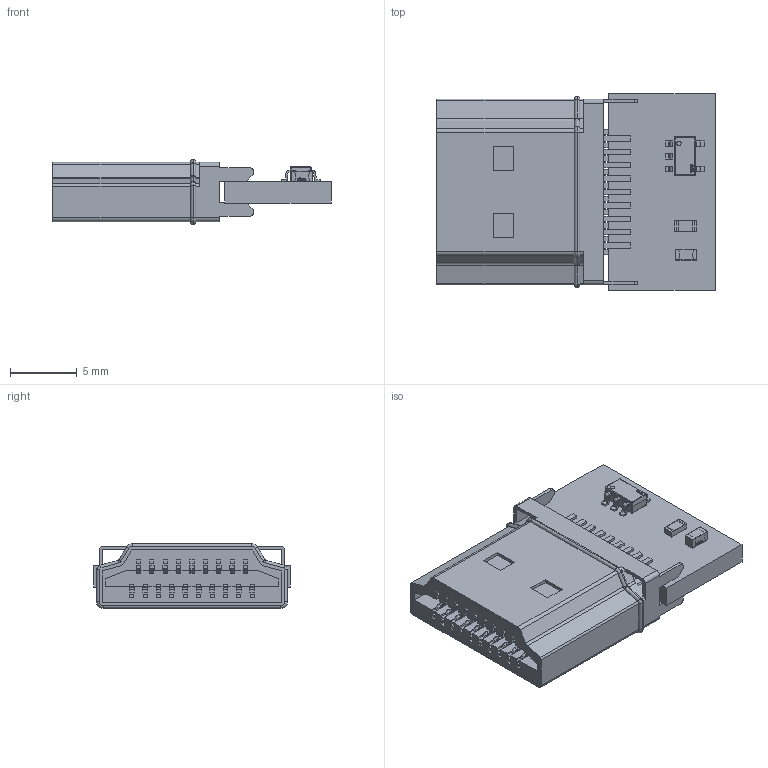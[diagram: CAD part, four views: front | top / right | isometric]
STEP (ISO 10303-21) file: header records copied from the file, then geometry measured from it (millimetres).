
FILE_DESCRIPTION(('Designed by EasyEDA Pro'),'2;1');
FILE_NAME('Open CASCADE Shape Model','2024-07-03T11:32:33',('Author'),( 'Open CASCADE'),'Open CASCADE STEP processor 7.6','Open CASCADE 7.6' ,'Unknown');
FILE_SCHEMA(('AUTOMOTIVE_DESIGN { 1 0 10303 214 1 1 1 1 }'));
Length unit declared in the file: millimetre
Products named in the file (14): PCBModel; COMPOUND; R1; R0603; U1; SOT-23-5_L2.9-W1.6-P0.95-LS2.8-BR; C1; C0603; SOLID; HDMI1; HDMI-SMD_KH-HDMI-0021-JBS
Assembly tree (13 placements, depth 4):
  PCBModel
    COMPOUND
    R1
      R0603
        COMPOUND
    U1
      SOT-23-5_L2.9-W1.6-P0.95-LS2.8-BR
        COMPOUND
    C1
      C0603
        SOLID
    HDMI1
      HDMI-SMD_KH-HDMI-0021-JBS
        COMPOUND
Bounding box: 20.84 x 14.71 x 4.85 mm (x, y, z)
Volume: 823.9 mm3; surface area: 2105.4 mm2
Topology: 22 solids, 22 shells, 2036 faces, 5495 edges, 3620 vertices
Faces by surface type: plane 1310, bspline 420, cylinder 278, sphere 16, torus 12
Entity records: 85335 total; most frequent: CARTESIAN_POINT 18397, ORIENTED_EDGE 10974, DIRECTION 8337, EDGE_CURVE 5487, LINE 4033, VECTOR 4033, VERTEX_POINT 3620, FACE_BOUND 2183
